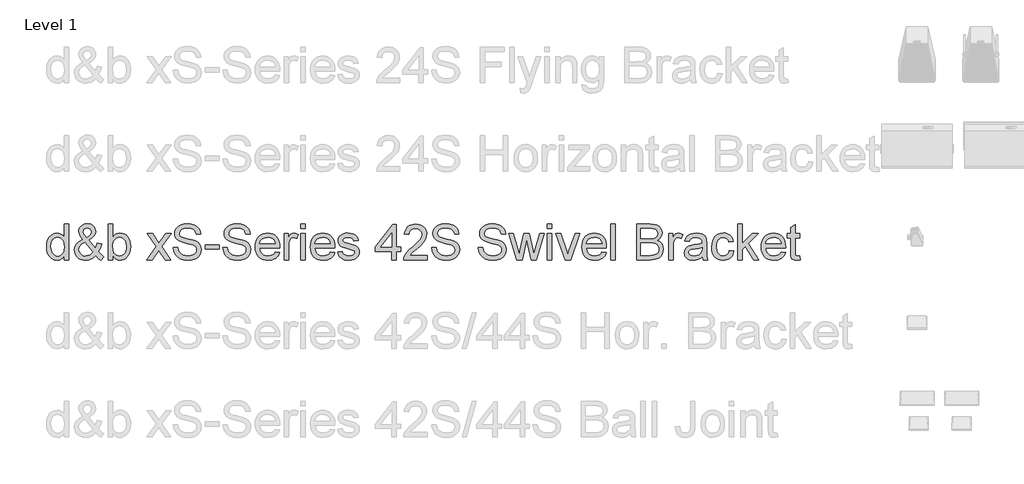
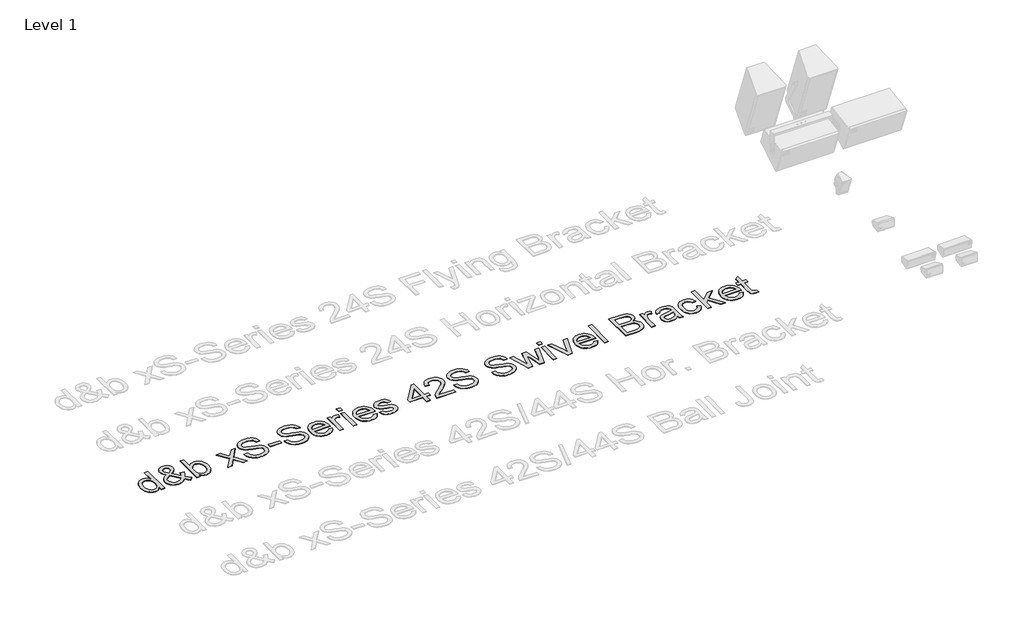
# One storey, part 30 of 55: 1 proxy.
"""IFC4 building model written with IfcOpenShell, lengths in millimetres."""

from ifc_helpers import new_model, si_unit, origin, origin_with_axes, place, context, project, spatial, polyline, outline, extrude, element, save

model = new_model("IFC4")

# Units and contexts
model_context = context("Model", 3, world=origin())
ifc_project = project(units=[si_unit("LENGTHUNIT", "METRE", prefix="MILLI")], contexts=[model_context])

# Site, building, storey
site = spatial("IfcSite", under=ifc_project)
building = spatial("IfcBuilding", under=site)
storey = spatial("IfcBuildingStorey", under=building, Name="Level 1", Elevation=0.0)

# Proxy
placement = place(None, origin())
element("IfcBuildingElementProxy", 1, Name="400mm Arial", ObjectType="400mm Arial", at=placement, inside=storey, context=model_context, shape_type="SweptSolid", body=[
    extrude(outline(polyline([(-20879.8211974, -5648.6945164), (-20879.8211974, -5601.3113154), (-20894.8491769, -5624.7883181), (-20913.0532043, -5641.5576057), (-20934.4332796, -5651.6191783), (-20958.9894028, -5654.9730358), (-20991.4611202, -5650.1169935), (-21021.1859854, -5635.5488665), (-21046.3491139, -5612.2864616), (-21065.1356211, -5581.3475858), (-21076.8342686, -5543.9830379), (-21080.7338177, -5501.4436165), (-21077.1408369, -5459.4314926), (-21066.3618944, -5421.4905962), (-21048.4092531, -5389.7791682), (-21023.2951755, -5366.4554497), (-20992.9203855, -5352.1080519), (-20959.1856065, -5347.325586), (-20934.6110892, -5350.7468885), (-20912.8815261, -5361.0107962), (-20894.4629008, -5376.7438829), (-20879.8211974, -5396.5727224), (-20879.8211974, -5246.8692758), (-20829.5930424, -5246.8692758), (-20829.5930424, -5648.6945164), (-20879.8211974, -5648.6945164)]), holes=[polyline([(-21030.5056627, -5501.2474128), (-21029.089317, -5525.6042665), (-21024.8402799, -5546.6808392), (-21017.7585515, -5564.4771307), (-21007.8441318, -5578.9931411), (-20983.1469871, -5598.3069458), (-20969.2717046, -5603.135397), (-20954.3786151, -5604.7448807), (-20939.415015, -5603.2089734), (-20925.6225058, -5598.6012514), (-20901.5507606, -5580.1703635), (-20892.0440767, -5566.2613584), (-20885.2535882, -5549.1088603), (-20879.8211974, -5505.0733855), (-20885.3516901, -5456.9298951), (-20892.2648059, -5438.3947739), (-20901.9431681, -5423.5507354), (-20913.6448812, -5412.1770504), (-20926.6280499, -5404.0529896), (-20940.8926743, -5399.1785532), (-20956.4387543, -5397.5537411), (-20971.6261493, -5399.1141738), (-20985.5014319, -5403.7954722), (-20998.064602, -5411.5976362), (-21009.3156597, -5422.5206658), (-21018.586286, -5436.8036843), (-21025.2081619, -5454.6858149), (-21030.5056627, -5501.2474128)])]), origin_with_axes(), (0.0, 0.0, 1.0), 5.0),
    extrude(outline(polyline([(-20523.809528, -5599.0549725), (-20549.3405384, -5623.5191252), (-20577.0788409, -5640.99352), (-20607.0734862, -5651.4781569), (-20639.3735254, -5654.9730358), (-20668.6814577, -5652.3855991), (-20694.8010793, -5644.623289), (-20717.7323904, -5631.6861055), (-20737.4753908, -5613.5740486), (-20750.308341, -5596.2038871), (-20759.4747341, -5577.8404442), (-20764.9745699, -5558.4837198), (-20766.8078485, -5538.1337141), (-20760.9094739, -5502.9396699), (-20743.2143499, -5471.3263438), (-20713.796053, -5443.3182613), (-20672.7281596, -5418.9399477), (-20694.6416638, -5390.5885086), (-20707.7995765, -5368.1231814), (-20714.3846642, -5348.9442668), (-20716.5796934, -5330.4520651), (-20714.8506481, -5312.8979626), (-20709.6635119, -5296.5333452), (-20701.018285, -5281.3582129), (-20688.9149674, -5267.3725657), (-20674.1935562, -5255.6555241), (-20657.6940487, -5247.2862088), (-20639.4164449, -5242.2646195), (-20619.3607448, -5240.5907564), (-20600.212487, -5242.1910431), (-20582.8913764, -5246.9919032), (-20567.397413, -5254.9933366), (-20553.7305969, -5266.1953433), (-20542.5715097, -5279.6414302), (-20534.6007332, -5294.3751041), (-20529.8182672, -5310.396365), (-20528.2241119, -5327.7052129), (-20532.9452642, -5355.68877), (-20547.108721, -5381.563137), (-20570.7144823, -5405.3283139), (-20603.7625482, -5426.9843007), (-20531.069066, -5517.5323224), (-20518.6837055, -5491.6579554), (-20509.3885538, -5461.9085647), (-20459.1603987, -5472.7978718), (-20474.6114425, -5519.3226815), (-20494.6732739, -5555.4977443), (-20466.1256311, -5588.8033276), (-20434.0463211, -5616.3209009), (-20471.7174374, -5654.9730358), (-20497.3465498, -5631.52669), (-20523.809528, -5599.0549725)]), holes=[polyline([(-20557.4584678, -5562.8553842), (-20647.1235727, -5450.9211558), (-20681.3733865, -5472.7733463), (-20702.305872, -5493.0068561), (-20713.0112381, -5512.3329235), (-20716.5796934, -5531.4627873), (-20711.6991256, -5555.1543878), (-20697.0574222, -5579.7289051), (-20686.2784798, -5590.6733944), (-20673.4639236, -5598.4908868), (-20658.6137537, -5603.1813823), (-20641.7279702, -5604.7448807), (-20619.0051256, -5601.8263502), (-20595.5710425, -5593.0707588), (-20574.1480476, -5579.6798541), (-20557.4584678, -5562.8553842)]), polyline([(-20629.1709314, -5395.2973981), (-20602.9041569, -5378.6323438), (-20587.8700461, -5364.1500559), (-20580.8067117, -5350.0601755), (-20578.452267, -5334.5723435), (-20581.5547385, -5317.0243723), (-20590.862153, -5303.0325938), (-20604.829406, -5293.8723321), (-20621.9113933, -5290.8189115), (-20639.3612626, -5293.8478066), (-20653.6473468, -5302.9344919), (-20663.1754905, -5316.3867102), (-20666.3515384, -5332.5122043), (-20662.0350563, -5350.9063041), (-20648.9875082, -5371.360543), (-20629.1709314, -5395.2973981)])]), origin_with_axes(), (0.0, 0.0, 1.0), 5.0),
    extrude(outline(polyline([(-20333.590011, -5648.6945164), (-20383.8181661, -5648.6945164), (-20383.8181661, -5246.8692758), (-20333.590011, -5246.8692758), (-20333.590011, -5395.8860093), (-20317.0721094, -5374.6408241), (-20298.4204923, -5359.4656918), (-20277.6351595, -5350.3606124), (-20254.7161112, -5347.325586), (-20228.8417442, -5350.0601755), (-20204.3898543, -5358.263944), (-20182.758393, -5371.4218567), (-20165.3453119, -5389.0188788), (-20151.6968898, -5410.883332), (-20141.3594058, -5436.8435381), (-20134.8478945, -5465.8203766), (-20132.6773907, -5496.734727), (-20134.9245365, -5532.4070178), (-20141.6659741, -5563.7873519), (-20152.9017034, -5590.8757295), (-20168.6317244, -5613.6721505), (-20187.5132678, -5631.7412878), (-20208.2035643, -5644.6478145), (-20230.702614, -5652.3917305), (-20255.0104168, -5654.9730358), (-20278.6836232, -5651.6437038), (-20299.671291, -5641.6557076), (-20317.9734203, -5625.0090473), (-20333.590011, -5601.7037229), (-20333.590011, -5648.6945164)]), holes=[polyline([(-20333.590011, -5499.0891717), (-20330.1564457, -5540.9786682), (-20319.8557498, -5569.3301073), (-20307.6849872, -5584.8240707), (-20293.5399244, -5595.8911874), (-20277.4205617, -5602.5314574), (-20259.3268989, -5604.7448807), (-20244.3050508, -5603.1139372), (-20230.3377977, -5598.2211067), (-20217.4251396, -5590.0663891), (-20205.5670767, -5578.6497845), (-20195.6526569, -5564.0019498), (-20188.5709285, -5546.1535416), (-20184.3218914, -5525.1045601), (-20182.9055458, -5500.8550053), (-20188.3379366, -5454.8942814), (-20195.1284251, -5437.1010555), (-20204.6351089, -5422.7659205), (-20216.0670419, -5411.735592), (-20228.6332778, -5403.8567859), (-20242.3338164, -5399.1295023), (-20257.1686579, -5397.5537411), (-20272.190506, -5399.1846846), (-20286.1577591, -5404.0775151), (-20299.0704171, -5412.2322327), (-20310.9284801, -5423.6488372), (-20320.8428999, -5438.1495192), (-20327.9246283, -5455.556469), (-20332.1736653, -5475.8696865), (-20333.590011, -5499.0891717)])]), origin_with_axes(), (0.0, 0.0, 1.0), 5.0),
    extrude(outline(polyline([(-19950.6003285, -5648.6945164), (-19843.2768878, -5500.2663941), (-19944.3218092, -5353.6041054), (-19884.0872638, -5353.6041054), (-19835.3306367, -5424.3355503), (-19812.4729021, -5457.5920827), (-19792.6563253, -5430.3197641), (-19737.1306695, -5353.6041054), (-19676.6999204, -5353.6041054), (-19782.8461387, -5500.364496), (-19680.623995, -5648.6945164), (-19740.9566422, -5648.6945164), (-19802.5646137, -5559.4218189), (-19813.7482263, -5543.0388074), (-19890.1695795, -5648.6945164), (-19950.6003285, -5648.6945164)])), origin_with_axes(), (0.0, 0.0, 1.0), 5.0),
    extrude(outline(polyline([(-19649.2313981, -5510.56709), (-19599.003243, -5510.56709), (-19593.2397584, -5538.4402825), (-19582.8164352, -5560.844296), (-19566.556051, -5578.6252591), (-19543.2813835, -5592.6293004), (-19514.8318425, -5601.7159856), (-19483.0468381, -5604.7448807), (-19455.063281, -5602.4517496), (-19430.5623402, -5595.5723563), (-19410.7089752, -5584.6830493), (-19396.6681457, -5570.3601769), (-19388.3172244, -5553.9158517), (-19385.533584, -5536.6621862), (-19387.6182486, -5519.849979), (-19393.8722425, -5505.3186402), (-19406.5764341, -5492.9210169), (-19428.0116917, -5482.5099565), (-19501.1466323, -5463.3310418), (-19549.1552327, -5450.639113), (-19579.8733793, -5438.5603208), (-19604.8770922, -5421.6622745), (-19622.5967416, -5401.1835101), (-19633.1549549, -5377.565486), (-19636.6743593, -5351.2496606), (-19632.3210891, -5321.8313637), (-19619.2612782, -5294.3996296), (-19597.8382834, -5271.1494875), (-19568.395461, -5254.2759667), (-19533.054264, -5244.012059), (-19493.9361452, -5240.5907564), (-19451.5561394, -5244.1714745), (-19414.4736342, -5254.9136288), (-19384.013005, -5272.59649), (-19361.4986269, -5296.999329), (-19347.249331, -5326.6015669), (-19341.5839483, -5359.8826247), (-19391.8121033, -5359.8826247), (-19401.0336787, -5329.9125049), (-19409.3968627, -5318.0544419), (-19420.2616443, -5308.2810436), (-19450.3053406, -5295.1844445), (-19491.9741079, -5290.8189115), (-19534.6238939, -5295.1353936), (-19550.9271976, -5300.5309962), (-19563.8827752, -5308.0848398), (-19580.805347, -5327.1411272), (-19586.4462043, -5349.7781326), (-19582.4485532, -5369.0796746), (-19570.4556002, -5384.6042948), (-19542.1041611, -5398.4857088), (-19488.4424407, -5412.6614283), (-19433.0639377, -5426.1259093), (-19399.5621507, -5437.8736077), (-19370.9286687, -5456.0960292), (-19350.9526764, -5478.5858819), (-19339.2172408, -5505.097911), (-19335.3054289, -5535.3868619), (-19339.805852, -5566.3502632), (-19353.3071212, -5595.4742545), (-19375.2574136, -5620.5392811), (-19405.1049061, -5639.3257883), (-19440.9979261, -5651.0612239), (-19481.0848008, -5654.9730358), (-19530.2951491, -5650.7546556), (-19570.7989567, -5638.099515), (-19603.0622077, -5616.958563), (-19627.5508858, -5587.2827487), (-19643.2717098, -5551.1322113), (-19649.2313981, -5510.56709)])), origin_with_axes(), (0.0, 0.0, 1.0), 5.0),
    extrude(outline(polyline([(-19291.3557932, -5529.4026481), (-19291.3557932, -5479.174493), (-19134.3928086, -5479.174493), (-19134.3928086, -5529.4026481), (-19291.3557932, -5529.4026481)])), origin_with_axes(), (0.0, 0.0, 1.0), 5.0),
    extrude(outline(polyline([(-19090.4431729, -5510.56709), (-19040.2150178, -5510.56709), (-19034.4515332, -5538.4402825), (-19024.02821, -5560.844296), (-19007.7678258, -5578.6252591), (-18984.4931583, -5592.6293004), (-18956.0436173, -5601.7159856), (-18924.2586129, -5604.7448807), (-18896.2750558, -5602.4517496), (-18871.774115, -5595.5723563), (-18851.9207499, -5584.6830493), (-18837.8799205, -5570.3601769), (-18829.5289992, -5553.9158517), (-18826.7453587, -5536.6621862), (-18828.8300234, -5519.849979), (-18835.0840173, -5505.3186402), (-18847.7882089, -5492.9210169), (-18869.2234665, -5482.5099565), (-18942.3584071, -5463.3310418), (-18990.3670075, -5450.639113), (-19021.0851541, -5438.5603208), (-19046.088867, -5421.6622745), (-19063.8085164, -5401.1835101), (-19074.3667297, -5377.565486), (-19077.8861341, -5351.2496606), (-19073.5328638, -5321.8313637), (-19060.473053, -5294.3996296), (-19039.0500582, -5271.1494875), (-19009.6072358, -5254.2759667), (-18974.2660388, -5244.012059), (-18935.14792, -5240.5907564), (-18892.7679141, -5244.1714745), (-18855.685409, -5254.9136288), (-18825.2247798, -5272.59649), (-18802.7104017, -5296.999329), (-18788.4611058, -5326.6015669), (-18782.7957231, -5359.8826247), (-18833.0238781, -5359.8826247), (-18842.2454535, -5329.9125049), (-18850.6086375, -5318.0544419), (-18861.4734191, -5308.2810436), (-18891.5171154, -5295.1844445), (-18933.1858827, -5290.8189115), (-18975.8356687, -5295.1353936), (-18992.1389724, -5300.5309962), (-19005.09455, -5308.0848398), (-19022.0171218, -5327.1411272), (-19027.657979, -5349.7781326), (-19023.660328, -5369.0796746), (-19011.667375, -5384.6042948), (-18983.3159359, -5398.4857088), (-18929.6542155, -5412.6614283), (-18874.2757125, -5426.1259093), (-18840.7739255, -5437.8736077), (-18812.1404435, -5456.0960292), (-18792.1644512, -5478.5858819), (-18780.4290156, -5505.097911), (-18776.5172037, -5535.3868619), (-18781.0176267, -5566.3502632), (-18794.518896, -5595.4742545), (-18816.4691883, -5620.5392811), (-18846.3166809, -5639.3257883), (-18882.2097009, -5651.0612239), (-18922.2965756, -5654.9730358), (-18971.5069238, -5650.7546556), (-19012.0107315, -5638.099515), (-19044.2739825, -5616.958563), (-19068.7626606, -5587.2827487), (-19084.4834846, -5551.1322113), (-19090.4431729, -5510.56709)])), origin_with_axes(), (0.0, 0.0, 1.0), 5.0),
    extrude(outline(polyline([(-18500.850962, -5560.795245), (-18451.6038255, -5567.0737644), (-18459.1546035, -5586.7983707), (-18469.3480004, -5604.180795), (-18482.1840164, -5619.2210372), (-18497.6626513, -5631.9190974), (-18515.6244897, -5642.0051955), (-18535.9101161, -5649.2095512), (-18583.4527326, -5654.9730358), (-18614.618469, -5652.4867667), (-18642.3874282, -5645.0279592), (-18666.7596104, -5632.5966135), (-18687.7350155, -5615.1927294), (-18704.602405, -5593.300685), (-18716.6505403, -5567.4048582), (-18723.8794215, -5537.5052491), (-18726.2890486, -5503.6018575), (-18723.8548961, -5468.5488348), (-18716.5524385, -5437.6528785), (-18704.3816758, -5410.9139888), (-18687.342608, -5388.3321657), (-18666.4223852, -5370.3917871), (-18642.6081574, -5357.5772309), (-18615.8999246, -5349.8884972), (-18586.2976867, -5347.325586), (-18557.6488763, -5349.8823658), (-18531.7407868, -5357.5527054), (-18508.5734182, -5370.3366048), (-18488.1467704, -5388.2340638), (-18471.472519, -5410.766836), (-18459.5623394, -5437.4566748), (-18452.4162316, -5468.3035801), (-18450.0341957, -5503.3075519), (-18450.3285013, -5516.8456094), (-18676.0608935, -5516.8456094), (-18673.1515601, -5536.8890467), (-18667.3666157, -5554.4431493), (-18658.7060604, -5569.507917), (-18647.1698942, -5582.0833498), (-18633.3957791, -5591.9977696), (-18618.0213774, -5599.079498), (-18582.4717139, -5604.7448807), (-18555.7389556, -5602.1206558), (-18533.2245775, -5594.2479811), (-18514.9285796, -5580.6363473), (-18500.850962, -5560.795245)]), holes=[polyline([(-18676.0608935, -5466.6174543), (-18500.2623508, -5466.6174543), (-18507.0559049, -5440.0808997), (-18520.3732332, -5421.0981887), (-18534.0707061, -5410.7974929), (-18549.65664, -5403.439853), (-18567.1310348, -5399.025269), (-18586.4938904, -5397.5537411), (-18620.3512967, -5402.2503679), (-18648.3471166, -5416.3402483), (-18667.8080741, -5438.3028034), (-18676.0608935, -5466.6174543)])]), origin_with_axes(), (0.0, 0.0, 1.0), 5.0),
    extrude(outline(polyline([(-18399.8060406, -5648.6945164), (-18399.8060406, -5353.6041054), (-18355.8564049, -5353.6041054), (-18355.8564049, -5397.2594355), (-18339.6205462, -5371.9491542), (-18324.6600117, -5357.0376707), (-18309.6504263, -5349.7536071), (-18293.2674148, -5347.325586), (-18268.2514391, -5351.2006097), (-18242.843056, -5362.8256807), (-18259.618475, -5407.8544369), (-18277.2768108, -5400.128915), (-18294.9351465, -5397.5537411), (-18309.9324692, -5400.0308132), (-18323.3356365, -5407.4620295), (-18334.1636299, -5419.2833042), (-18341.4354307, -5434.9305518), (-18347.5422718, -5462.9876853), (-18349.5778855, -5493.5954673), (-18349.5778855, -5648.6945164), (-18399.8060406, -5648.6945164)])), origin_with_axes(), (0.0, 0.0, 1.0), 5.0),
    extrude(outline(polyline([(-18211.4504591, -5297.0974309), (-18211.4504591, -5246.8692758), (-18161.222304, -5246.8692758), (-18161.222304, -5297.0974309), (-18211.4504591, -5297.0974309)])), origin_with_axes(), (0.0, 0.0, 1.0), 5.0),
    extrude(outline(polyline([(-18211.4504591, -5648.6945164), (-18211.4504591, -5353.6041054), (-18161.222304, -5353.6041054), (-18161.222304, -5648.6945164), (-18211.4504591, -5648.6945164)])), origin_with_axes(), (0.0, 0.0, 1.0), 5.0),
    extrude(outline(polyline([(-17879.2775429, -5560.795245), (-17830.0304065, -5567.0737644), (-17837.5811844, -5586.7983707), (-17847.7745814, -5604.180795), (-17860.6105973, -5619.2210372), (-17876.0892323, -5631.9190974), (-17894.0510707, -5642.0051955), (-17914.336697, -5649.2095512), (-17961.8793136, -5654.9730358), (-17993.0450499, -5652.4867667), (-18020.8140092, -5645.0279592), (-18045.1861914, -5632.5966135), (-18066.1615965, -5615.1927294), (-18083.0289859, -5593.300685), (-18095.0771213, -5567.4048582), (-18102.3060025, -5537.5052491), (-18104.7156295, -5503.6018575), (-18102.281477, -5468.5488348), (-18094.9790194, -5437.6528785), (-18082.8082567, -5410.9139888), (-18065.769189, -5388.3321657), (-18044.8489662, -5370.3917871), (-18021.0347384, -5357.5772309), (-17994.3265055, -5349.8884972), (-17964.7242676, -5347.325586), (-17936.0754573, -5349.8823658), (-17910.1673678, -5357.5527054), (-17886.9999991, -5370.3366048), (-17866.5733513, -5388.2340638), (-17849.8990999, -5410.766836), (-17837.9889203, -5437.4566748), (-17830.8428126, -5468.3035801), (-17828.4607766, -5503.3075519), (-17828.7550822, -5516.8456094), (-18054.4874745, -5516.8456094), (-18051.578141, -5536.8890467), (-18045.7931967, -5554.4431493), (-18037.1326413, -5569.507917), (-18025.5964751, -5582.0833498), (-18011.8223601, -5591.9977696), (-17996.4479584, -5599.079498), (-17960.8982949, -5604.7448807), (-17934.1655366, -5602.1206558), (-17911.6511585, -5594.2479811), (-17893.3551606, -5580.6363473), (-17879.2775429, -5560.795245)]), holes=[polyline([(-18054.4874745, -5466.6174543), (-17878.6889317, -5466.6174543), (-17885.4824859, -5440.0808997), (-17898.7998141, -5421.0981887), (-17912.4972871, -5410.7974929), (-17928.0832209, -5403.439853), (-17945.5576157, -5399.025269), (-17964.9204714, -5397.5537411), (-17998.7778777, -5402.2503679), (-18026.7736975, -5416.3402483), (-18046.234655, -5438.3028034), (-18054.4874745, -5466.6174543)])]), origin_with_axes(), (0.0, 0.0, 1.0), 5.0),
    extrude(outline(polyline([(-17797.0681797, -5560.795245), (-17746.8400246, -5554.5167257), (-17738.918299, -5576.0010342), (-17723.5898825, -5591.7954345), (-17700.7566734, -5601.5075192), (-17670.3205696, -5604.7448807), (-17640.2523479, -5601.7772993), (-17619.1113959, -5592.874555), (-17606.6034081, -5579.9741597), (-17602.4340788, -5565.0136253), (-17606.6279335, -5552.2113318), (-17619.2094978, -5542.4501962), (-17670.9091808, -5528.1273239), (-17746.545719, -5503.5528066), (-17765.6878455, -5491.2042343), (-17779.5569967, -5474.858011), (-17787.9814944, -5455.556469), (-17790.7896603, -5434.3419406), (-17788.5333174, -5414.880983), (-17781.7642887, -5396.9160789), (-17771.0957109, -5381.1584668), (-17757.1407205, -5368.3193852), (-17725.2085633, -5353.4569526), (-17704.3251287, -5348.8584276), (-17681.9946916, -5347.325586), (-17649.302245, -5349.7903953), (-17620.8772295, -5357.1848234), (-17598.0194949, -5368.785369), (-17582.0288908, -5383.8685308), (-17571.4338893, -5403.5502176), (-17564.7629625, -5428.946338), (-17614.9911176, -5435.2248574), (-17621.3309506, -5419.4181943), (-17633.8757267, -5407.5110804), (-17652.748073, -5400.0430759), (-17678.070617, -5397.5537411), (-17706.9125654, -5399.9327113), (-17726.140531, -5407.069622), (-17736.9562617, -5417.3703179), (-17740.5615053, -5429.2406436), (-17734.5772915, -5443.8578215), (-17715.8398352, -5454.9433323), (-17672.5769125, -5465.6364356), (-17598.8533607, -5489.2789852), (-17579.3801404, -5500.5852252), (-17564.6158097, -5516.0607944), (-17555.3083952, -5535.7547439), (-17552.2059237, -5559.7161245), (-17555.8479555, -5584.4868455), (-17566.7740507, -5607.7860386), (-17584.5672766, -5627.7865564), (-17608.8107, -5642.6612517), (-17638.0941069, -5651.8950898), (-17671.0072827, -5654.9730358), (-17698.040478, -5653.4892451), (-17721.6523707, -5649.037873), (-17741.8429609, -5641.6189194), (-17758.6122485, -5631.2323844), (-17772.3097214, -5617.9273189), (-17783.2848676, -5601.7527738), (-17791.5376871, -5582.7087492), (-17797.0681797, -5560.795245)])), origin_with_axes(), (0.0, 0.0, 1.0), 5.0),
    extrude(outline(polyline([(-17188.0517994, -5648.6945164), (-17188.0517994, -5554.5167257), (-17370.1288616, -5554.5167257), (-17370.1288616, -5504.2885706), (-17175.4947607, -5253.1477952), (-17137.8236444, -5253.1477952), (-17137.8236444, -5504.2885706), (-17087.5954893, -5504.2885706), (-17087.5954893, -5554.5167257), (-17137.8236444, -5554.5167257), (-17137.8236444, -5648.6945164), (-17188.0517994, -5648.6945164)]), holes=[polyline([(-17188.0517994, -5504.2885706), (-17188.0517994, -5349.0914196), (-17308.3246864, -5504.2885706), (-17188.0517994, -5504.2885706)])]), origin_with_axes(), (0.0, 0.0, 1.0), 5.0),
    extrude(outline(polyline([(-16786.2265588, -5598.4663614), (-16786.2265588, -5648.6945164), (-17049.924373, -5648.6945164), (-17048.820727, -5631.0116552), (-17044.5287704, -5614.0645579), (-17032.1311471, -5587.0007058), (-17013.9700393, -5560.7461941), (-16987.7155276, -5533.2654091), (-16951.0376927, -5502.522737), (-16896.8486748, -5454.3792466), (-16864.3646946, -5418.8418458), (-16848.1410986, -5389.9998974), (-16842.7332333, -5361.9427639), (-16847.846793, -5336.7918982), (-16863.1874722, -5315.8839381), (-16886.7687081, -5301.7940577), (-16916.6039379, -5297.0974309), (-16947.9352212, -5301.6836931), (-16972.2767465, -5315.4424797), (-16987.9853077, -5337.2946702), (-16993.4176985, -5366.1611441), (-17043.6458536, -5359.8826247), (-17039.3263058, -5333.9530755), (-17031.4689596, -5311.2976759), (-17020.0738147, -5291.9164261), (-17005.1408714, -5275.8093261), (-16987.0134861, -5263.1480541), (-16966.0350153, -5254.1042884), (-16942.2054591, -5248.678029), (-16915.5248174, -5246.8692758), (-16888.6050524, -5248.8803641), (-16864.6467375, -5254.9136288), (-16843.6498726, -5264.96907), (-16825.6144578, -5279.0466877), (-16811.1291042, -5296.1041495), (-16800.7824231, -5315.0991232), (-16794.5744144, -5336.0316087), (-16792.5050782, -5358.9016061), (-16794.7368957, -5382.9243004), (-16801.432348, -5406.5300617), (-16813.3149364, -5430.5404933), (-16831.1081622, -5455.7771982), (-16859.4718641, -5485.9067336), (-16903.0658805, -5524.5956567), (-16960.8478792, -5572.9108254), (-16983.5094101, -5598.4663614), (-16786.2265588, -5598.4663614)])), origin_with_axes(), (0.0, 0.0, 1.0), 5.0),
    extrude(outline(polyline([(-16735.9984038, -5510.56709), (-16685.7702487, -5510.56709), (-16680.0067641, -5538.4402825), (-16669.5834409, -5560.844296), (-16653.3230567, -5578.6252591), (-16630.0483891, -5592.6293004), (-16601.5988482, -5601.7159856), (-16569.8138438, -5604.7448807), (-16541.8302867, -5602.4517496), (-16517.3293458, -5595.5723563), (-16497.4759808, -5584.6830493), (-16483.4351513, -5570.3601769), (-16475.08423, -5553.9158517), (-16472.3005896, -5536.6621862), (-16474.3852543, -5519.849979), (-16480.6392482, -5505.3186402), (-16493.3434397, -5492.9210169), (-16514.7786973, -5482.5099565), (-16587.913638, -5463.3310418), (-16635.9222383, -5450.639113), (-16666.6403849, -5438.5603208), (-16691.6440979, -5421.6622745), (-16709.3637473, -5401.1835101), (-16719.9219606, -5377.565486), (-16723.441365, -5351.2496606), (-16719.0880947, -5321.8313637), (-16706.0282839, -5294.3996296), (-16684.605289, -5271.1494875), (-16655.1624667, -5254.2759667), (-16619.8212697, -5244.012059), (-16580.7031509, -5240.5907564), (-16538.323145, -5244.1714745), (-16501.2406399, -5254.9136288), (-16470.7800107, -5272.59649), (-16448.2656326, -5296.999329), (-16434.0163367, -5326.6015669), (-16428.3509539, -5359.8826247), (-16478.579109, -5359.8826247), (-16487.8006843, -5329.9125049), (-16496.1638684, -5318.0544419), (-16507.02865, -5308.2810436), (-16537.0723462, -5295.1844445), (-16578.7411136, -5290.8189115), (-16621.3908995, -5295.1353936), (-16637.6942033, -5300.5309962), (-16650.6497809, -5308.0848398), (-16667.5723527, -5327.1411272), (-16673.2132099, -5349.7781326), (-16669.2155589, -5369.0796746), (-16657.2226059, -5384.6042948), (-16628.8711668, -5398.4857088), (-16575.2094464, -5412.6614283), (-16519.8309434, -5426.1259093), (-16486.3291564, -5437.8736077), (-16457.6956744, -5456.0960292), (-16437.7196821, -5478.5858819), (-16425.9842464, -5505.097911), (-16422.0724345, -5535.3868619), (-16426.5728576, -5566.3502632), (-16440.0741268, -5595.4742545), (-16462.0244192, -5620.5392811), (-16491.8719118, -5639.3257883), (-16527.7649318, -5651.0612239), (-16567.8518065, -5654.9730358), (-16617.0621547, -5650.7546556), (-16657.5659624, -5638.099515), (-16689.8292134, -5616.958563), (-16714.3178915, -5587.2827487), (-16730.0387154, -5551.1322113), (-16735.9984038, -5510.56709)])), origin_with_axes(), (0.0, 0.0, 1.0), 5.0),
    extrude(outline(polyline([(-16208.6027755, -5510.56709), (-16158.3746204, -5510.56709), (-16152.6111358, -5538.4402825), (-16142.1878126, -5560.844296), (-16125.9274284, -5578.6252591), (-16102.6527609, -5592.6293004), (-16074.2032199, -5601.7159856), (-16042.4182155, -5604.7448807), (-16014.4346584, -5602.4517496), (-15989.9337175, -5595.5723563), (-15970.0803525, -5584.6830493), (-15956.0395231, -5570.3601769), (-15947.6886018, -5553.9158517), (-15944.9049613, -5536.6621862), (-15946.989626, -5519.849979), (-15953.2436199, -5505.3186402), (-15965.9478115, -5492.9210169), (-15987.383069, -5482.5099565), (-16060.5180097, -5463.3310418), (-16108.5266101, -5450.639113), (-16139.2447566, -5438.5603208), (-16164.2484696, -5421.6622745), (-16181.968119, -5401.1835101), (-16192.5263323, -5377.565486), (-16196.0457367, -5351.2496606), (-16191.6924664, -5321.8313637), (-16178.6326556, -5294.3996296), (-16157.2096607, -5271.1494875), (-16127.7668384, -5254.2759667), (-16092.4256414, -5244.012059), (-16053.3075226, -5240.5907564), (-16010.9275167, -5244.1714745), (-15973.8450116, -5254.9136288), (-15943.3843824, -5272.59649), (-15920.8700043, -5296.999329), (-15906.6207084, -5326.6015669), (-15900.9553256, -5359.8826247), (-15951.1834807, -5359.8826247), (-15960.4050561, -5329.9125049), (-15968.7682401, -5318.0544419), (-15979.6330217, -5308.2810436), (-16009.6767179, -5295.1844445), (-16051.3454853, -5290.8189115), (-16093.9952712, -5295.1353936), (-16110.298575, -5300.5309962), (-16123.2541526, -5308.0848398), (-16140.1767244, -5327.1411272), (-16145.8175816, -5349.7781326), (-16141.8199306, -5369.0796746), (-16129.8269776, -5384.6042948), (-16101.4755385, -5398.4857088), (-16047.8138181, -5412.6614283), (-15992.4353151, -5426.1259093), (-15958.9335281, -5437.8736077), (-15930.3000461, -5456.0960292), (-15910.3240538, -5478.5858819), (-15898.5886181, -5505.097911), (-15894.6768063, -5535.3868619), (-15899.1772293, -5566.3502632), (-15912.6784986, -5595.4742545), (-15934.6287909, -5620.5392811), (-15964.4762835, -5639.3257883), (-16000.3693035, -5651.0612239), (-16040.4561782, -5654.9730358), (-16089.6665264, -5650.7546556), (-16130.1703341, -5638.099515), (-16162.4335851, -5616.958563), (-16186.9222632, -5587.2827487), (-16202.6430872, -5551.1322113), (-16208.6027755, -5510.56709)])), origin_with_axes(), (0.0, 0.0, 1.0), 5.0),
    extrude(outline(polyline([(-15776.2678547, -5648.6945164), (-15866.423469, -5353.6041054), (-15814.3313785, -5353.6041054), (-15763.3184085, -5525.7728791), (-15748.1126194, -5587.2827487), (-15735.6536825, -5528.029222), (-15695.1376121, -5353.6041054), (-15635.4916779, -5353.6041054), (-15594.9756075, -5527.5387127), (-15583.8900967, -5581.200433), (-15567.9975945, -5524.5956567), (-15516.9846245, -5353.6041054), (-15464.5982284, -5353.6041054), (-15555.0481483, -5648.6945164), (-15615.6751011, -5648.6945164), (-15654.3272361, -5475.6428259), (-15665.5108487, -5421.6867999), (-15715.2484945, -5648.6945164), (-15776.2678547, -5648.6945164)])), origin_with_axes(), (0.0, 0.0, 1.0), 5.0),
    extrude(outline(polyline([(-15430.0663718, -5648.6945164), (-15430.0663718, -5353.6041054), (-15379.8382167, -5353.6041054), (-15379.8382167, -5648.6945164), (-15430.0663718, -5648.6945164)])), origin_with_axes(), (0.0, 0.0, 1.0), 5.0),
    extrude(outline(polyline([(-15430.0663718, -5297.0974309), (-15430.0663718, -5246.8692758), (-15379.8382167, -5246.8692758), (-15379.8382167, -5297.0974309), (-15430.0663718, -5297.0974309)])), origin_with_axes(), (0.0, 0.0, 1.0), 5.0),
    extrude(outline(polyline([(-15231.9006037, -5648.6945164), (-15335.888581, -5353.6041054), (-15282.8154719, -5353.6041054), (-15219.8340743, -5530.3836668), (-15200.9004143, -5589.8333972), (-15182.3591617, -5533.7191302), (-15119.0834586, -5353.6041054), (-15065.9122475, -5353.6041054), (-15168.4286968, -5648.6945164), (-15231.9006037, -5648.6945164)])), origin_with_axes(), (0.0, 0.0, 1.0), 5.0),
    extrude(outline(polyline([(-14815.3600833, -5560.795245), (-14766.1129469, -5567.0737644), (-14773.6637249, -5586.7983707), (-14783.8571218, -5604.180795), (-14796.6931378, -5619.2210372), (-14812.1717727, -5631.9190974), (-14830.1336111, -5642.0051955), (-14850.4192375, -5649.2095512), (-14897.961854, -5654.9730358), (-14929.1275903, -5652.4867667), (-14956.8965496, -5645.0279592), (-14981.2687318, -5632.5966135), (-15002.2441369, -5615.1927294), (-15019.1115264, -5593.300685), (-15031.1596617, -5567.4048582), (-15038.3885429, -5537.5052491), (-15040.79817, -5503.6018575), (-15038.3640174, -5468.5488348), (-15031.0615598, -5437.6528785), (-15018.8907972, -5410.9139888), (-15001.8517294, -5388.3321657), (-14980.9315066, -5370.3917871), (-14957.1172788, -5357.5772309), (-14930.409046, -5349.8884972), (-14900.8068081, -5347.325586), (-14872.1579977, -5349.8823658), (-14846.2499082, -5357.5527054), (-14823.0825396, -5370.3366048), (-14802.6558918, -5388.2340638), (-14785.9816403, -5410.766836), (-14774.0714607, -5437.4566748), (-14766.925353, -5468.3035801), (-14764.5433171, -5503.3075519), (-14764.8376227, -5516.8456094), (-14990.5700149, -5516.8456094), (-14987.6606815, -5536.8890467), (-14981.8757371, -5554.4431493), (-14973.2151818, -5569.507917), (-14961.6790156, -5582.0833498), (-14947.9049005, -5591.9977696), (-14932.5304988, -5599.079498), (-14896.9808353, -5604.7448807), (-14870.248077, -5602.1206558), (-14847.7336989, -5594.2479811), (-14829.437701, -5580.6363473), (-14815.3600833, -5560.795245)]), holes=[polyline([(-14990.5700149, -5466.6174543), (-14814.7714721, -5466.6174543), (-14821.5650263, -5440.0808997), (-14834.8823545, -5421.0981887), (-14848.5798275, -5410.7974929), (-14864.1657614, -5403.439853), (-14881.6401561, -5399.025269), (-14901.0030118, -5397.5537411), (-14934.8604181, -5402.2503679), (-14962.8562379, -5416.3402483), (-14982.3171955, -5438.3028034), (-14990.5700149, -5466.6174543)])]), origin_with_axes(), (0.0, 0.0, 1.0), 5.0),
    extrude(outline(polyline([(-14714.315162, -5648.6945164), (-14714.315162, -5246.8692758), (-14664.0870069, -5246.8692758), (-14664.0870069, -5648.6945164), (-14714.315162, -5648.6945164)])), origin_with_axes(), (0.0, 0.0, 1.0), 5.0),
    extrude(outline(polyline([(-14425.5032703, -5648.6945164), (-14425.5032703, -5246.8692758), (-14272.1700547, -5246.8692758), (-14229.9985153, -5249.8245945), (-14197.0730768, -5258.6905506), (-14171.8363719, -5273.6878733), (-14152.7310336, -5295.0372917), (-14140.7012924, -5320.1513693), (-14136.6913786, -5346.4426692), (-14140.0636303, -5370.6370417), (-14150.1803851, -5393.3844118), (-14167.1152196, -5413.2868277), (-14190.9417102, -5428.946338), (-14162.4799065, -5443.8087706), (-14141.4493191, -5466.4212506), (-14128.4630847, -5495.2877244), (-14124.1343399, -5528.9121388), (-14127.0896586, -5556.9324841), (-14135.9556146, -5582.9172157), (-14149.1871037, -5605.0146609), (-14165.2390215, -5621.3731469), (-14184.8961827, -5633.2189472), (-14208.9434025, -5641.7783349), (-14238.1654956, -5646.9654711), (-14273.3472771, -5648.6945164), (-14425.5032703, -5648.6945164)]), holes=[polyline([(-14375.2751152, -5598.4663614), (-14272.2681566, -5598.4663614), (-14234.9894477, -5596.504324), (-14203.449698, -5585.5659661), (-14191.8736779, -5576.1359242), (-14182.5540007, -5563.2477917), (-14176.4103714, -5547.4779168), (-14174.3624949, -5529.4026481), (-14176.7659906, -5508.4088489), (-14183.9764777, -5490.3581057), (-14196.5703047, -5476.2436998), (-14215.12382, -5467.0589127), (-14241.4028572, -5462.0189293), (-14277.1732499, -5460.3389349), (-14375.2751152, -5460.3389349), (-14375.2751152, -5598.4663614)]), polyline([(-14375.2751152, -5410.1107798), (-14283.5498711, -5410.1107798), (-14229.9862526, -5405.7942977), (-14211.2365336, -5398.3508187), (-14197.7597898, -5387.2039943), (-14189.6295977, -5372.5255026), (-14186.9195337, -5354.4870222), (-14189.4456567, -5336.9758392), (-14197.0240258, -5321.7209991), (-14209.3112845, -5309.8138852), (-14225.9640761, -5302.3458807), (-14251.5196121, -5298.4095434), (-14290.5151036, -5297.0974309), (-14375.2751152, -5297.0974309), (-14375.2751152, -5410.1107798)])]), origin_with_axes(), (0.0, 0.0, 1.0), 5.0),
    extrude(outline(polyline([(-14061.349146, -5648.6945164), (-14061.349146, -5353.6041054), (-14017.3995103, -5353.6041054), (-14017.3995103, -5397.2594355), (-14001.1636516, -5371.9491542), (-13986.2031171, -5357.0376707), (-13971.1935317, -5349.7536071), (-13954.8105202, -5347.325586), (-13929.7945445, -5351.2006097), (-13904.3861614, -5362.8256807), (-13921.1615804, -5407.8544369), (-13938.8199162, -5400.128915), (-13956.4782519, -5397.5537411), (-13971.4755746, -5400.0308132), (-13984.878742, -5407.4620295), (-13995.7067354, -5419.2833042), (-14002.9785361, -5434.9305518), (-14009.0853772, -5462.9876853), (-14011.1209909, -5493.5954673), (-14011.1209909, -5648.6945164), (-14061.349146, -5648.6945164)])), origin_with_axes(), (0.0, 0.0, 1.0), 5.0),
    extrude(outline(polyline([(-13684.637983, -5611.0234001), (-13708.6361518, -5631.6002664), (-13733.3455591, -5645.0647474), (-13759.3302907, -5652.4959637), (-13787.1544323, -5654.9730358), (-13809.5185919, -5653.4831137), (-13829.1297679, -5649.0133475), (-13845.9879604, -5641.5637371), (-13860.0931692, -5631.1342825), (-13871.2307966, -5618.3871714), (-13879.1862447, -5603.9845913), (-13883.9595136, -5587.9265422), (-13885.5506033, -5570.2130241), (-13883.1471076, -5549.3909032), (-13875.9366205, -5530.4817686), (-13864.8143215, -5514.2949609), (-13850.6753901, -5501.6398202), (-13834.0593867, -5492.0748883), (-13815.5058714, -5485.1587068), (-13772.046745, -5477.6048632), (-13720.6904185, -5469.6586121), (-13684.9322886, -5460.3389349), (-13684.637983, -5449.1553222), (-13688.0960737, -5426.739046), (-13698.470346, -5412.0728171), (-13721.6714371, -5401.1835101), (-13753.9960018, -5397.5537411), (-13783.9170707, -5399.9694995), (-13804.8127681, -5407.2167748), (-13819.062064, -5420.6199422), (-13829.0439288, -5441.5033767), (-13879.2720839, -5435.2248574), (-13870.5532806, -5407.7563351), (-13857.5425207, -5386.1739247), (-13839.0257936, -5369.6682858), (-13813.7890887, -5357.4300781), (-13782.9237893, -5349.851709), (-13747.5212787, -5347.325586), (-13713.5657705, -5349.5574034), (-13686.6490712, -5356.2528557), (-13666.3542478, -5366.3205597), (-13652.2643674, -5378.669132), (-13642.9201647, -5393.9362348), (-13636.8623745, -5412.7595302), (-13634.4098279, -5456.7091659), (-13634.4098279, -5519.2000541), (-13631.8591794, -5606.4616634), (-13621.8527891, -5648.6945164), (-13672.0809442, -5648.6945164), (-13680.1252972, -5631.2323844), (-13684.637983, -5611.0234001)]), holes=[polyline([(-13684.637983, -5510.56709), (-13718.3850247, -5518.930274), (-13765.6701238, -5525.9690828), (-13808.8839955, -5534.1115377), (-13820.1289218, -5539.6788185), (-13828.4553176, -5547.3552895), (-13833.6056655, -5556.5523394), (-13835.3224482, -5566.681357), (-13831.5823146, -5581.617366), (-13820.3619137, -5593.8555737), (-13801.9065003, -5602.022554), (-13776.461329, -5604.7448807), (-13749.483316, -5601.7405111), (-13725.6445627, -5592.7274022), (-13706.3184952, -5579.4468622), (-13692.8785397, -5563.6401991), (-13686.9188513, -5547.3552895), (-13684.9322886, -5524.7918605), (-13684.637983, -5510.56709)])]), origin_with_axes(), (0.0, 0.0, 1.0), 5.0),
    extrude(outline(polyline([(-13376.9905331, -5541.9596869), (-13326.7623781, -5548.2382063), (-13332.2254257, -5571.9390038), (-13340.7664193, -5592.9113432), (-13352.385359, -5611.1552245), (-13367.0822447, -5626.6706476), (-13384.2378084, -5639.0529425), (-13403.2327821, -5647.8974388), (-13424.0671658, -5653.2041366), (-13446.7409594, -5654.9730358), (-13474.9115232, -5652.5051608), (-13500.1696878, -5645.1015356), (-13522.5154534, -5632.7621604), (-13541.9488198, -5615.487035), (-13557.6788407, -5593.601122), (-13568.91457, -5567.4293837), (-13575.6560076, -5536.9718202), (-13577.9031534, -5502.2284314), (-13574.0649179, -5457.530769), (-13562.5502115, -5418.7927949), (-13543.1750931, -5387.5105626), (-13515.7556217, -5365.1801255), (-13482.9528105, -5351.7892209), (-13447.4276725, -5347.325586), (-13425.1432206, -5348.8584276), (-13404.986353, -5353.4569526), (-13386.9570695, -5361.1211608), (-13371.0553703, -5371.8510523), (-13357.5510354, -5385.4013725), (-13346.7138449, -5401.5268666), (-13338.543799, -5420.2275347), (-13333.0408974, -5441.5033767), (-13383.2690525, -5447.7818961), (-13392.3802633, -5425.8683919), (-13406.5682455, -5410.1598308), (-13425.0481844, -5400.7052635), (-13447.035265, -5397.5537411), (-13464.1019239, -5399.1049768), (-13479.4947197, -5403.758684), (-13493.2136525, -5411.5148628), (-13505.2587221, -5422.373513), (-13515.065843, -5436.5860207), (-13522.0709293, -5454.403772), (-13526.2739811, -5475.8267669), (-13527.6749984, -5500.8550053), (-13522.1935566, -5547.9316379), (-13515.3417545, -5565.8689509), (-13505.7492314, -5580.0722616), (-13493.9432851, -5590.8665325), (-13480.4512129, -5598.576726), (-13465.2730149, -5603.202842), (-13448.4086911, -5604.7448807), (-13422.3994341, -5600.8943825), (-13401.0745411, -5589.3428879), (-13385.5621836, -5569.7960912), (-13376.9905331, -5541.9596869)])), origin_with_axes(), (0.0, 0.0, 1.0), 5.0),
    extrude(outline(polyline([(-13282.8127424, -5648.6945164), (-13282.8127424, -5246.8692758), (-13232.5845873, -5246.8692758), (-13232.5845873, -5462.7914815), (-13119.9636458, -5353.6041054), (-13050.5075251, -5353.6041054), (-13164.5999946, -5464.1649076), (-13044.2290058, -5648.6945164), (-13102.8939213, -5648.6945164), (-13200.6033792, -5499.0891717), (-13232.5845873, -5530.187463), (-13232.5845873, -5648.6945164), (-13282.8127424, -5648.6945164)])), origin_with_axes(), (0.0, 0.0, 1.0), 5.0),
    extrude(outline(polyline([(-12793.6768416, -5560.795245), (-12744.4297052, -5567.0737644), (-12751.9804831, -5586.7983707), (-12762.1738801, -5604.180795), (-12775.009896, -5619.2210372), (-12790.488531, -5631.9190974), (-12808.4503694, -5642.0051955), (-12828.7359957, -5649.2095512), (-12876.2786122, -5654.9730358), (-12907.4443486, -5652.4867667), (-12935.2133079, -5645.0279592), (-12959.58549, -5632.5966135), (-12980.5608951, -5615.1927294), (-12997.4282846, -5593.300685), (-13009.4764199, -5567.4048582), (-13016.7053012, -5537.5052491), (-13019.1149282, -5503.6018575), (-13016.6807757, -5468.5488348), (-13009.3783181, -5437.6528785), (-12997.2075554, -5410.9139888), (-12980.1684877, -5388.3321657), (-12959.2482649, -5370.3917871), (-12935.4340371, -5357.5772309), (-12908.7258042, -5349.8884972), (-12879.1235663, -5347.325586), (-12850.4747559, -5349.8823658), (-12824.5666664, -5357.5527054), (-12801.3992978, -5370.3366048), (-12780.97265, -5388.2340638), (-12764.2983986, -5410.766836), (-12752.388219, -5437.4566748), (-12745.2421112, -5468.3035801), (-12742.8600753, -5503.3075519), (-12743.1543809, -5516.8456094), (-12968.8867731, -5516.8456094), (-12965.9774397, -5536.8890467), (-12960.1924953, -5554.4431493), (-12951.53194, -5569.507917), (-12939.9957738, -5582.0833498), (-12926.2216588, -5591.9977696), (-12910.847257, -5599.079498), (-12875.2975936, -5604.7448807), (-12848.5648353, -5602.1206558), (-12826.0504572, -5594.2479811), (-12807.7544593, -5580.6363473), (-12793.6768416, -5560.795245)]), holes=[polyline([(-12968.8867731, -5466.6174543), (-12793.0882304, -5466.6174543), (-12799.8817846, -5440.0808997), (-12813.1991128, -5421.0981887), (-12826.8965857, -5410.7974929), (-12842.4825196, -5403.439853), (-12859.9569144, -5399.025269), (-12879.3197701, -5397.5537411), (-12913.1771763, -5402.2503679), (-12941.1729962, -5416.3402483), (-12960.6339537, -5438.3028034), (-12968.8867731, -5466.6174543)])]), origin_with_axes(), (0.0, 0.0, 1.0), 5.0),
    extrude(outline(polyline([(-12585.8970907, -5606.8050199), (-12579.6185713, -5650.1660444), (-12617.1915858, -5654.9730358), (-12641.3001192, -5652.8883712), (-12659.277286, -5646.6343773), (-12671.9814776, -5636.995869), (-12680.2710852, -5624.7576613), (-12684.8328219, -5603.7393366), (-12686.3534009, -5567.7604775), (-12686.3534009, -5403.8322604), (-12724.0245172, -5403.8322604), (-12724.0245172, -5353.6041054), (-12686.3534009, -5353.6041054), (-12686.3534009, -5281.8916418), (-12636.1252458, -5252.3629803), (-12636.1252458, -5353.6041054), (-12585.8970907, -5353.6041054), (-12585.8970907, -5403.8322604), (-12636.1252458, -5403.8322604), (-12636.1252458, -5566.2889495), (-12633.4764954, -5592.187842), (-12624.8925822, -5601.3603664), (-12607.7738067, -5604.7448807), (-12585.8970907, -5606.8050199)])), origin_with_axes(), (0.0, 0.0, 1.0), 5.0),
])

save(model, "model.ifc")
